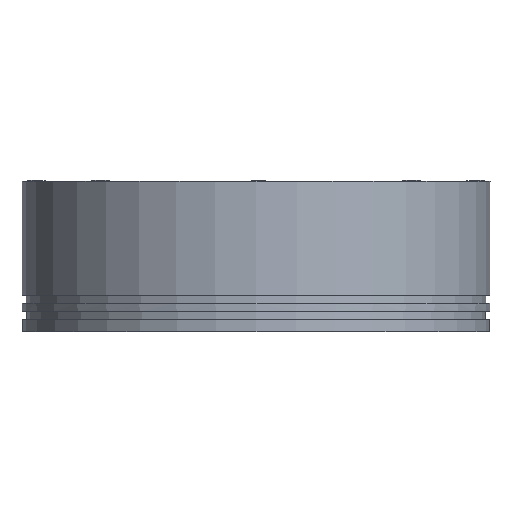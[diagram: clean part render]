
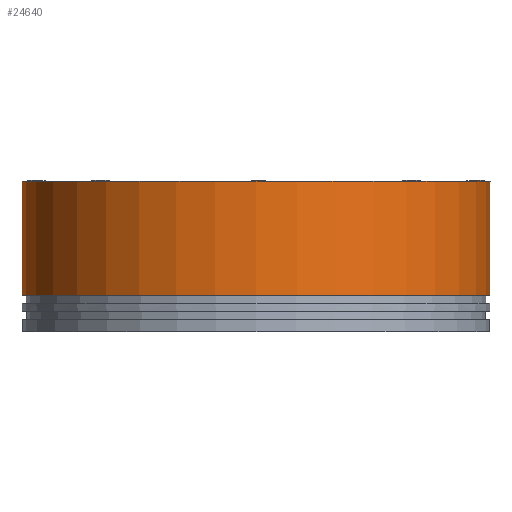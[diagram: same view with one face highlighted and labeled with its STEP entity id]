
A CAD part, left-side view. The second image highlights one B-rep face of the part: STEP entity #24640.
In plain terms, the highlighted cylindrical face has radius 57.5 mm (diameter 115 mm), a full revolution.
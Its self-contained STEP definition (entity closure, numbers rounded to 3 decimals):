
#24593=CARTESIAN_POINT('',(0.,57.5,9.));
#24594=VERTEX_POINT('',#24593);
#24595=CARTESIAN_POINT('',(0.,0.,9.));
#24596=DIRECTION('',(0.,1.,0.));
#24597=DIRECTION('',(0.,0.,-1.));
#24598=AXIS2_PLACEMENT_3D('',#24595,#24597,#24596);
#24599=CIRCLE('',#24598,57.5);
#24600=EDGE_CURVE('',#24594,#24594,#24599,.T.);
#24616=CARTESIAN_POINT('',(0.,0.,37.));
#24617=DIRECTION('',(0.,1.,0.));
#24618=DIRECTION('',(0.,0.,-1.));
#24619=AXIS2_PLACEMENT_3D('',#24616,#24618,#24617);
#24620=CYLINDRICAL_SURFACE('',#24619,57.5);
#24621=ORIENTED_EDGE('',*,*,#24600,.F.);
#24622=CARTESIAN_POINT('',(0.,57.5,37.));
#24623=VERTEX_POINT('',#24622);
#24624=CARTESIAN_POINT('',(0.,57.5,9.));
#24625=DIRECTION('',(0.,0.,1.));
#24626=VECTOR('',#24625,28.);
#24627=LINE('',#24624,#24626);
#24628=EDGE_CURVE('',#24594,#24623,#24627,.T.);
#24629=ORIENTED_EDGE('',*,*,#24628,.T.);
#24630=CARTESIAN_POINT('',(0.,0.,37.));
#24631=DIRECTION('',(0.,1.,0.));
#24632=DIRECTION('',(0.,0.,1.));
#24633=AXIS2_PLACEMENT_3D('',#24630,#24632,#24631);
#24634=CIRCLE('',#24633,57.5);
#24635=EDGE_CURVE('',#24623,#24623,#24634,.T.);
#24636=ORIENTED_EDGE('',*,*,#24635,.F.);
#24637=ORIENTED_EDGE('',*,*,#24628,.F.);
#24638=EDGE_LOOP('',(#24621,#24629,#24636,#24637));
#24639=FACE_OUTER_BOUND('',#24638,.T.);
#24640=ADVANCED_FACE('',(#24639),#24620,.T.);
